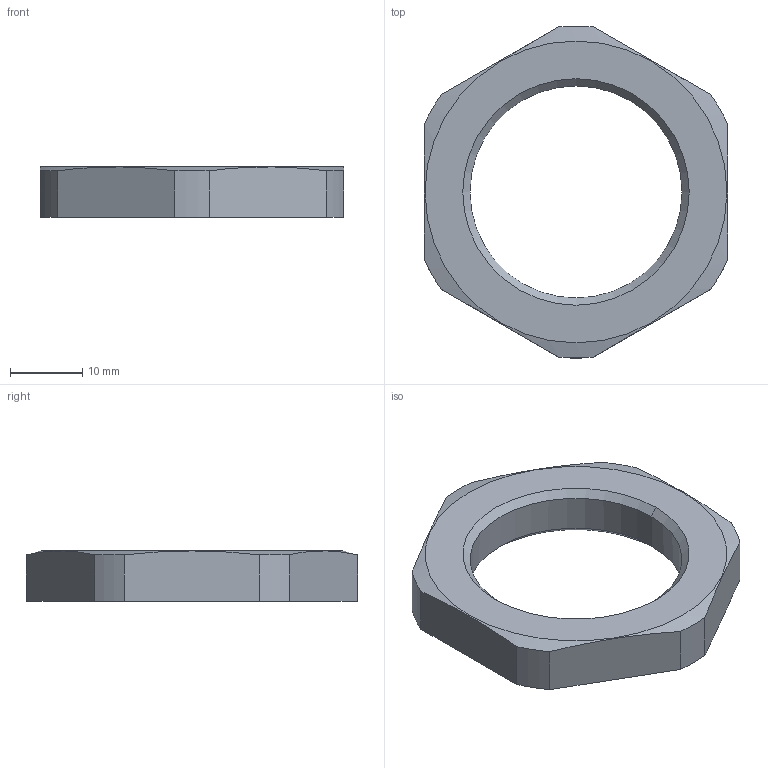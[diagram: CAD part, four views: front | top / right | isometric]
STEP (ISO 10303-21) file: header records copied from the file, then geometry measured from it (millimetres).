
FILE_DESCRIPTION (( 'STEP AP203' ), '1' );
FILE_NAME ('210 PANPT-G.STEP', '2007-01-29T07:30:27', ( ' ' ), ( '' ), 'SwSTEP 2.0', 'SolidWorks 2005278', '' );
FILE_SCHEMA (( 'CONFIG_CONTROL_DESIGN' ));
Length unit declared in the file: millimetre
Products named in the file (1): 210 PANPT-G
Bounding box: 42 x 45.97 x 7 mm (x, y, z)
Volume: 5667.8 mm3; surface area: 3161.3 mm2
Topology: 1 solids, 1 shells, 59 faces, 158 edges, 104 vertices
Faces by surface type: plane 45, cone 8, cylinder 6
Entity records: 1939 total; most frequent: CARTESIAN_POINT 374, ORIENTED_EDGE 316, DIRECTION 292, EDGE_CURVE 158, VECTOR 128, LINE 128, VERTEX_POINT 104, AXIS2_PLACEMENT_3D 82
